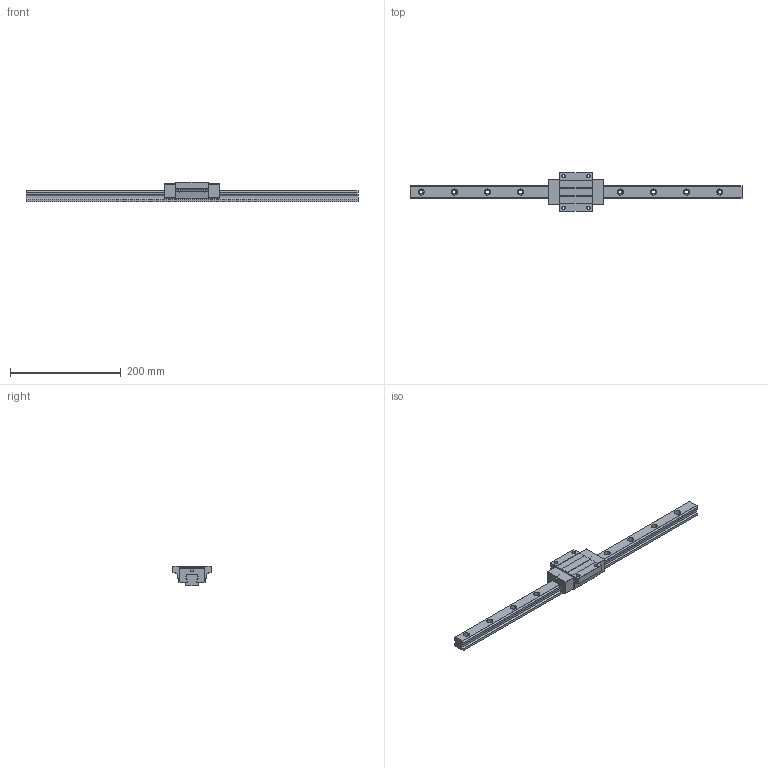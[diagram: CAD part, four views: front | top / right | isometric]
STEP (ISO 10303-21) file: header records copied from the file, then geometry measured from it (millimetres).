
FILE_DESCRIPTION (( 'STEP AP203' ), '1' );
FILE_NAME ('TRH25FN-WZ-§ï.STEP', '2023-08-30T00:55:22', ( '' ), ( '' ), 'SwSTEP 2.0', 'SolidWorks 2022', '' );
FILE_SCHEMA (( 'CONFIG_CONTROL_DESIGN' ));
Length unit declared in the file: millimetre
Products named in the file (1): TRH25FN-WZ-改
Bounding box: 600 x 70 x 36 mm (x, y, z)
Volume: 354974.1 mm3; surface area: 79555.1 mm2
Topology: 1 solids, 1 shells, 199 faces, 550 edges, 360 vertices
Faces by surface type: cylinder 108, plane 87, sphere 4
Entity records: 6871 total; most frequent: CARTESIAN_POINT 1526, DIRECTION 1128, ORIENTED_EDGE 1092, EDGE_CURVE 546, AXIS2_PLACEMENT_3D 404, VERTEX_POINT 360, VECTOR 320, LINE 320
